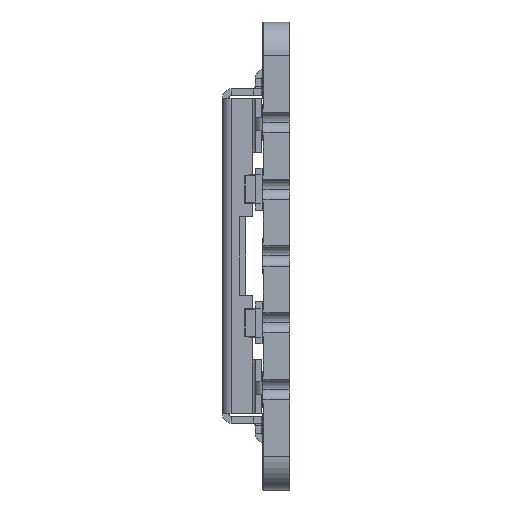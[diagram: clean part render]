
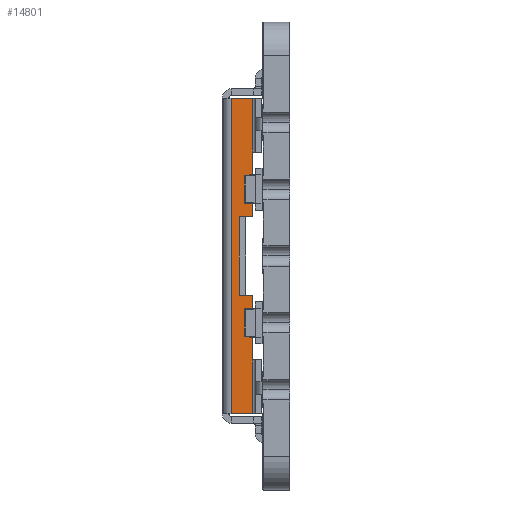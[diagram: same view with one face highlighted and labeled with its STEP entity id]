
A CAD part, left-side view. The second image highlights one B-rep face of the part: STEP entity #14801.
In plain terms, the highlighted planar face has unit normal (-1, 0, 0) as drawn and (1, 0, 0) by its records, which use the part's own axes.
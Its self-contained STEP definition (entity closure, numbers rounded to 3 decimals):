
#390 = CARTESIAN_POINT ( 'NONE',  ( 23.35, 0., -6. ) ) ;
#486 = DIRECTION ( 'NONE',  ( 0., -1., 0. ) ) ;
#2510 = LINE ( 'NONE', #31710, #22373 ) ;
#2836 = VECTOR ( 'NONE', #28477, 1000. ) ;
#2893 = VERTEX_POINT ( 'NONE', #4040 ) ;
#3315 = CARTESIAN_POINT ( 'NONE',  ( 23.35, -1.15, -6. ) ) ;
#4040 = CARTESIAN_POINT ( 'NONE',  ( 23.35, -0.35, 6. ) ) ;
#4174 = LINE ( 'NONE', #25988, #29527 ) ;
#4281 = FACE_OUTER_BOUND ( 'NONE', #11601, .T. ) ;
#4419 = LINE ( 'NONE', #23334, #2836 ) ;
#4746 = CARTESIAN_POINT ( 'NONE',  ( 23.35, 0., 6. ) ) ;
#4941 = DIRECTION ( 'NONE',  ( 0., 0., -1. ) ) ;
#5020 = CARTESIAN_POINT ( 'NONE',  ( 23.35, -1.15, -3.95 ) ) ;
#5063 = ORIENTED_EDGE ( 'NONE', *, *, #11089, .F. ) ;
#5895 = ORIENTED_EDGE ( 'NONE', *, *, #10243, .T. ) ;
#5978 = CARTESIAN_POINT ( 'NONE',  ( 23.35, -0.65, 1.5 ) ) ;
#6040 = VERTEX_POINT ( 'NONE', #10948 ) ;
#6978 = VERTEX_POINT ( 'NONE', #5020 ) ;
#7445 = DIRECTION ( 'NONE',  ( 0., 1., 0. ) ) ;
#7745 = CARTESIAN_POINT ( 'NONE',  ( 23.35, -0.35, -6. ) ) ;
#7897 = ORIENTED_EDGE ( 'NONE', *, *, #18288, .T. ) ;
#9225 = DIRECTION ( 'NONE',  ( -1., 0., 0. ) ) ;
#10243 = EDGE_CURVE ( 'NONE', #2893, #6040, #28667, .T. ) ;
#10658 = EDGE_CURVE ( 'NONE', #2893, #22873, #4174, .T. ) ;
#10863 = VERTEX_POINT ( 'NONE', #12501 ) ;
#10881 = DIRECTION ( 'NONE',  ( 0., 0., -1. ) ) ;
#10948 = CARTESIAN_POINT ( 'NONE',  ( 23.35, -1.15, 6. ) ) ;
#11089 = EDGE_CURVE ( 'NONE', #28241, #18241, #2510, .T. ) ;
#11601 = EDGE_LOOP ( 'NONE', ( #7897, #21284, #13452, #5063, #14213, #17205, #18758, #25364, #5895, #24433 ) ) ;
#12501 = CARTESIAN_POINT ( 'NONE',  ( 23.35, -1.15, 3.95 ) ) ;
#13452 = ORIENTED_EDGE ( 'NONE', *, *, #15030, .F. ) ;
#13872 = EDGE_CURVE ( 'NONE', #6040, #10863, #26402, .T. ) ;
#14028 = PLANE ( 'NONE',  #27733 ) ;
#14213 = ORIENTED_EDGE ( 'NONE', *, *, #25729, .T. ) ;
#14801 = ADVANCED_FACE ( 'NONE', ( #4281 ), #14028, .F. ) ;
#14963 = LINE ( 'NONE', #390, #31060 ) ;
#15030 = EDGE_CURVE ( 'NONE', #18241, #15178, #20449, .T. ) ;
#15178 = VERTEX_POINT ( 'NONE', #5978 ) ;
#15219 = LINE ( 'NONE', #29849, #27949 ) ;
#16897 = DIRECTION ( 'NONE',  ( 0., 0., -1. ) ) ;
#17205 = ORIENTED_EDGE ( 'NONE', *, *, #26248, .F. ) ;
#17234 = DIRECTION ( 'NONE',  ( 0., 1., 0. ) ) ;
#17403 = EDGE_CURVE ( 'NONE', #15178, #21412, #15219, .T. ) ;
#18241 = VERTEX_POINT ( 'NONE', #20539 ) ;
#18288 = EDGE_CURVE ( 'NONE', #10863, #21412, #20694, .T. ) ;
#18758 = ORIENTED_EDGE ( 'NONE', *, *, #26437, .T. ) ;
#19019 = CARTESIAN_POINT ( 'NONE',  ( 23.35, 0., 0. ) ) ;
#19269 = CARTESIAN_POINT ( 'NONE',  ( 23.35, -1.15, 1.5 ) ) ;
#20042 = LINE ( 'NONE', #26782, #28423 ) ;
#20449 = LINE ( 'NONE', #30405, #21089 ) ;
#20539 = CARTESIAN_POINT ( 'NONE',  ( 23.35, -0.65, -1.5 ) ) ;
#20694 = LINE ( 'NONE', #30164, #21642 ) ;
#21089 = VECTOR ( 'NONE', #22687, 1000. ) ;
#21284 = ORIENTED_EDGE ( 'NONE', *, *, #17403, .F. ) ;
#21412 = VERTEX_POINT ( 'NONE', #19269 ) ;
#21642 = VECTOR ( 'NONE', #10881, 1000. ) ;
#22373 = VECTOR ( 'NONE', #17234, 1000. ) ;
#22604 = VECTOR ( 'NONE', #16897, 1000. ) ;
#22687 = DIRECTION ( 'NONE',  ( 0., 0., 1. ) ) ;
#22873 = VERTEX_POINT ( 'NONE', #7745 ) ;
#23261 = DIRECTION ( 'NONE',  ( 0., 0., -1. ) ) ;
#23334 = CARTESIAN_POINT ( 'NONE',  ( 23.35, -1.15, -6. ) ) ;
#23984 = DIRECTION ( 'NONE',  ( 0., -1., 0. ) ) ;
#24433 = ORIENTED_EDGE ( 'NONE', *, *, #13872, .T. ) ;
#25364 = ORIENTED_EDGE ( 'NONE', *, *, #10658, .F. ) ;
#25729 = EDGE_CURVE ( 'NONE', #28241, #6978, #20042, .T. ) ;
#25886 = VECTOR ( 'NONE', #23984, 1000. ) ;
#25988 = CARTESIAN_POINT ( 'NONE',  ( 23.35, -0.35, -6. ) ) ;
#26143 = CARTESIAN_POINT ( 'NONE',  ( 23.35, -1.15, -1.5 ) ) ;
#26248 = EDGE_CURVE ( 'NONE', #31464, #6978, #4419, .T. ) ;
#26402 = LINE ( 'NONE', #26546, #22604 ) ;
#26437 = EDGE_CURVE ( 'NONE', #31464, #22873, #14963, .T. ) ;
#26546 = CARTESIAN_POINT ( 'NONE',  ( 23.35, -1.15, 0. ) ) ;
#26782 = CARTESIAN_POINT ( 'NONE',  ( 23.35, -1.15, 0. ) ) ;
#27733 = AXIS2_PLACEMENT_3D ( 'NONE', #19019, #9225, #28815 ) ;
#27949 = VECTOR ( 'NONE', #486, 1000. ) ;
#28241 = VERTEX_POINT ( 'NONE', #26143 ) ;
#28423 = VECTOR ( 'NONE', #4941, 1000. ) ;
#28477 = DIRECTION ( 'NONE',  ( 0., 0., 1. ) ) ;
#28667 = LINE ( 'NONE', #4746, #25886 ) ;
#28815 = DIRECTION ( 'NONE',  ( 0., -1., 0. ) ) ;
#29527 = VECTOR ( 'NONE', #23261, 1000. ) ;
#29849 = CARTESIAN_POINT ( 'NONE',  ( 23.35, -1.15, 1.5 ) ) ;
#30164 = CARTESIAN_POINT ( 'NONE',  ( 23.35, -1.15, 0. ) ) ;
#30405 = CARTESIAN_POINT ( 'NONE',  ( 23.35, -0.65, 1.5 ) ) ;
#31060 = VECTOR ( 'NONE', #7445, 1000. ) ;
#31464 = VERTEX_POINT ( 'NONE', #3315 ) ;
#31710 = CARTESIAN_POINT ( 'NONE',  ( 23.35, -1.15, -1.5 ) ) ;
